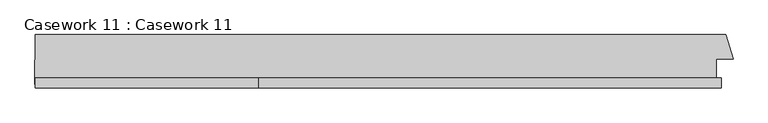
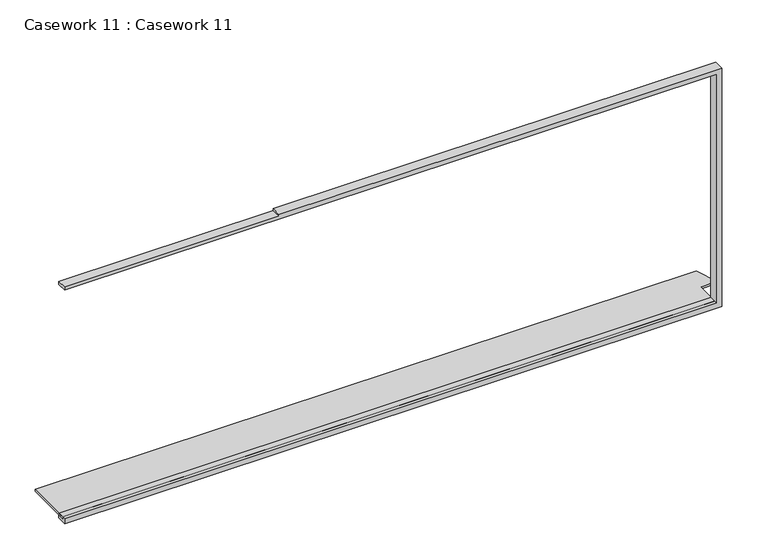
"""IFC4 building model written with IfcOpenShell, lengths in millimetres: furniture geometry, Casework 11 : Casework 11."""

from ifc_helpers import new_model, si_unit, frame, origin, place, context, project, spatial, polyline, outline, extrude, source, transform, mapped, element, save


def casework_11_casework_11_92e022cd(model_context):
    return source(origin(), model_context, "Body", "SweptSolid", [
        extrude(outline(polyline([(2600.0, 1690.6584713), (2600.0, 8236.6759907), (169.6631325, 8236.6759907), (169.6631325, 1690.6584713), (119.6631325, 1690.6584713), (119.6631325, 8286.6759907), (2650.0, 8286.6759907), (2650.0, 3841.8540053), (2632.1961848, 3841.8540053), (2632.1961848, 1690.6584713), (2600.0, 1690.6584713)])), frame((0.0, -4396.4940133, 0.0), z_axis=(0.0, 1.0, 0.0), x_axis=(0.0, 0.0, 1.0)), (0.0, 0.0, 1.0), 100.0),
        extrude(outline(polyline([(1690.6584713, -3881.9389803), (8328.5750272, -3881.9389803), (8400.891009, -4114.6940133), (8236.6759907, -4114.6940133), (8236.6759907, -4361.9389803), (1689.4300845, -4361.9389803), (1690.6584713, -3881.9389803)])), frame((0.0, 0.0, 150.0), z_axis=(0.0, 0.0, 1.0), x_axis=(1.0, 0.0, 0.0)), (0.0, 0.0, 1.0), 19.6631325),
    ])


if __name__ == "__main__":
    model = new_model("IFC4")
    model_context = context("Model", 3, world=origin())
    ifc_project = project(units=[si_unit("LENGTHUNIT", "METRE", prefix="MILLI")], contexts=[model_context])
    site = spatial("IfcSite", under=ifc_project)
    building = spatial("IfcBuilding", under=site)
    placement = place(None, origin())
    casework_11_casework_11_shape = casework_11_casework_11_92e022cd(model_context)
    element("IfcFurniture", 1, ObjectType="Casework 11 : Casework 11", at=placement, inside=building, context=model_context, shape_type="MappedRepresentation", body=[
        mapped(casework_11_casework_11_shape, transform((0.0, 0.0, 0.0), x_axis=(1.0, 0.0, 0.0), y_axis=(0.0, 1.0, 0.0), z_axis=(0.0, 0.0, 1.0))),
    ])
    save(model, "model.ifc")
